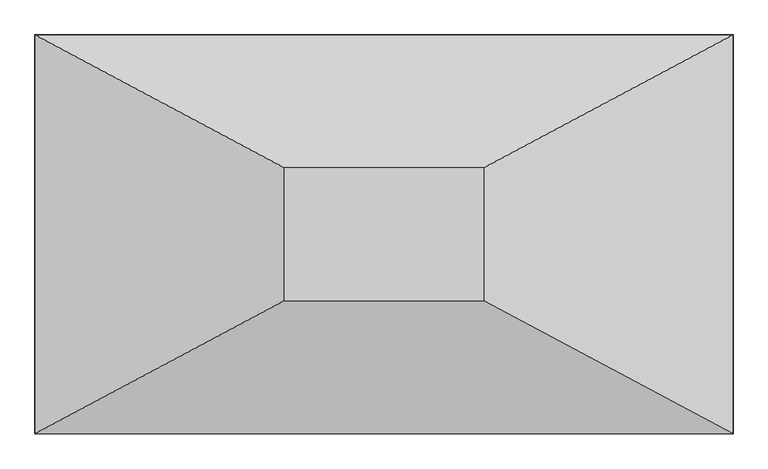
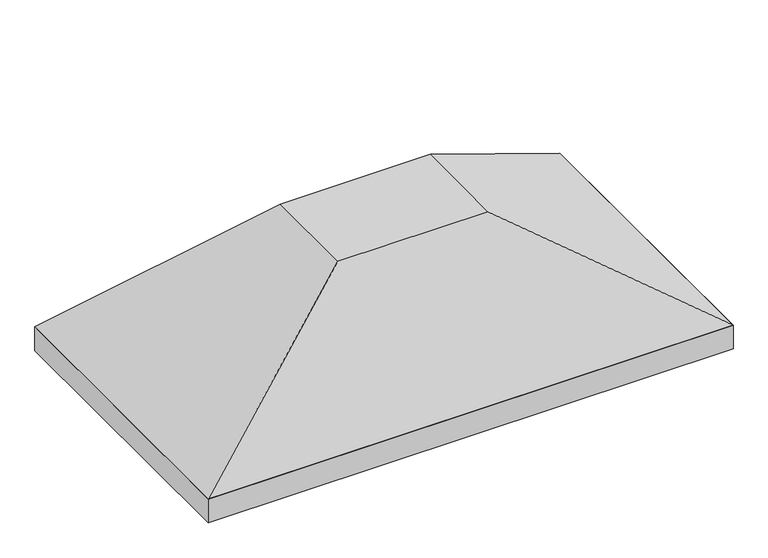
"""IFC4 building model written with IfcOpenShell, lengths in millimetres: proxy geometry, Coifa2 : Coifa."""

import ifcopenshell
import ifcopenshell.guid

model = None  # the IFC model being written
_history = None  # IfcOwnerHistory: only IFC2X3 demands one
_inside = {}  # id of a spatial element -> (the spatial element, [elements in it])
_under = {}  # id of a project, library or spatial element -> (it, [spatial elements below it])
_declared = {}  # id of a project -> (the project, [libraries it declares])
_typed = {}  # id of a type object -> (the type object, [elements of that type])
_made_of = {}  # id of a material, layer set ... -> (it, [elements and type objects made of it])


def new_model(schema):
    """Start an empty IFC model of exactly this schema.

    Asked for "IFC4X3", IfcOpenShell would pick the latest addendum, in which some entities
    have other attributes; the version numbers below select the first issue.
    IFC2X3 requires an IfcOwnerHistory on every rooted entity: one is made here for all.
    """
    global model, _history
    if schema == "IFC4X3":
        model = ifcopenshell.file(schema_version=(4, 3, 0, 0))
    else:
        model = ifcopenshell.file(schema=schema)
    _inside.clear()
    _under.clear()
    _declared.clear()
    _typed.clear()
    _made_of.clear()
    _history = None
    if model.schema == "IFC2X3":
        org = make("IfcOrganization", Name="unknown")
        user = make(
            "IfcPersonAndOrganization",
            ThePerson=make("IfcPerson", FamilyName="unknown"),
            TheOrganization=org,
        )
        app = make(
            "IfcApplication",
            ApplicationDeveloper=org,
            Version="unknown",
            ApplicationFullName="unknown",
            ApplicationIdentifier="unknown",
        )
        _history = make(
            "IfcOwnerHistory",
            OwningUser=user,
            OwningApplication=app,
            ChangeAction="ADDED",
            CreationDate=0,
        )
    return model


def make(cls, **values):
    """One entity of the class cls with the attributes given. An attribute that is None is left unset."""
    return model.create_entity(
        cls, **{name: value for name, value in values.items() if value is not None}
    )


def rooted(cls, **values):
    """An entity with a GlobalId (a new one), such as an element, a storey or a relation."""
    return make(cls, GlobalId=ifcopenshell.guid.new(), OwnerHistory=_history, **values)


def si_unit(unit_type, name, prefix=None):
    """IfcSIUnit, for example si_unit("LENGTHUNIT", "METRE", prefix="MILLI")."""
    return make("IfcSIUnit", UnitType=unit_type, Prefix=prefix, Name=name)


def assignment(units):
    """IfcUnitAssignment: the units of a project."""
    return None if units is None else make("IfcUnitAssignment", Units=units)


def point(xyz):
    """IfcCartesianPoint."""
    return None if xyz is None else make("IfcCartesianPoint", Coordinates=xyz)


def direction(xyz):
    """IfcDirection."""
    return None if xyz is None else make("IfcDirection", DirectionRatios=xyz)


def frame(location, z_axis=None, x_axis=None):
    """IfcAxis2Placement3D, a coordinate frame: its origin and axes. An axis left out is left unset."""
    return make(
        "IfcAxis2Placement3D",
        Location=point(location),
        Axis=direction(z_axis),
        RefDirection=direction(x_axis),
    )


def origin():
    """The frame at (0, 0, 0) with its axes left unset."""
    return frame((0.0, 0.0, 0.0))


def place(relative_to, where):
    """IfcLocalPlacement: puts the frame where relative to a parent placement (None: the world)."""
    return make(
        "IfcLocalPlacement", PlacementRelTo=relative_to, RelativePlacement=where
    )


def context(
    kind, dimensions, precision=None, world=None, true_north=None, identifier=None
):
    """IfcGeometricRepresentationContext, for example the 3D "Model" context."""
    return make(
        "IfcGeometricRepresentationContext",
        ContextIdentifier=identifier,
        ContextType=kind,
        CoordinateSpaceDimension=dimensions,
        Precision=precision,
        WorldCoordinateSystem=world,
        TrueNorth=true_north,
    )


def project(units=None, contexts=None):
    """IfcProject with its units and contexts."""
    return rooted(
        "IfcProject",
        Name="project",
        RepresentationContexts=contexts,
        UnitsInContext=assignment(units),
    )


def spatial(cls, under=None, at=None, **own):
    """A site, building, storey or space (cls), placed at a placement, below another one or the project."""
    s = rooted(cls, ObjectPlacement=at, **own)
    if under is not None:
        _under.setdefault(under.id(), (under, []))[1].append(s)
    return s


def polyline(points):
    """IfcPolyline through the points."""
    return make("IfcPolyline", Points=[point(p) for p in points])


def outline(outer, holes=None, kind="AREA"):
    """IfcArbitraryClosedProfileDef: a profile drawn as a closed curve; with holes, ...WithVoids."""
    if holes is None:
        return make("IfcArbitraryClosedProfileDef", ProfileType=kind, OuterCurve=outer)
    return make(
        "IfcArbitraryProfileDefWithVoids",
        ProfileType=kind,
        OuterCurve=outer,
        InnerCurves=holes,
    )


def extrude(swept, where, along, depth):
    """IfcExtrudedAreaSolid: the profile swept, set in the frame where, extruded along a direction by depth."""
    return make(
        "IfcExtrudedAreaSolid",
        SweptArea=swept,
        Position=where,
        ExtrudedDirection=direction(along),
        Depth=depth,
    )


def faces_of(points, faces, orient=None, outer=None):
    """IfcFace entities. A face is a list of loops; a loop is a list of indices into points, from 0.

    orient and outer hold one flag for each loop. By default every Orientation is true, the
    first loop of a face is its IfcFaceOuterBound and the others are IfcFaceBound.
    """
    made = []
    for i, loops in enumerate(faces):
        bounds = []
        for j, loop in enumerate(loops):
            is_outer = j == 0 if outer is None else outer[i][j]
            bounds.append(
                make(
                    "IfcFaceOuterBound" if is_outer else "IfcFaceBound",
                    Bound=make("IfcPolyLoop", Polygon=[points[k] for k in loop]),
                    Orientation=True if orient is None else orient[i][j],
                )
            )
        made.append(make("IfcFace", Bounds=bounds))
    return made


def faceted_brep(points, faces, orient=None, outer=None, voids=None):
    """IfcFacetedBrep: a solid bounded by flat faces; with voids (closed shells), ...WithVoids."""
    shared = [point(p) for p in points]
    hull = make("IfcClosedShell", CfsFaces=faces_of(shared, faces, orient, outer))
    if voids is None:
        return make("IfcFacetedBrep", Outer=hull)
    return make(
        "IfcFacetedBrepWithVoids",
        Outer=hull,
        Voids=[
            make(cls, CfsFaces=faces_of(shared, fs, o, b)) for cls, fs, o, b in voids
        ],
    )


def shape(context_of_items, identifier, shape_type, items):
    """IfcShapeRepresentation: the items that make up one representation, for example the "Body"."""
    return make(
        "IfcShapeRepresentation",
        ContextOfItems=context_of_items,
        RepresentationIdentifier=identifier,
        RepresentationType=shape_type,
        Items=items,
    )


def source(mapping_origin, context_of_items, identifier, shape_type, items):
    """IfcRepresentationMap: a shape defined once, which mapped items show again and again."""
    return make(
        "IfcRepresentationMap",
        MappingOrigin=mapping_origin,
        MappedRepresentation=shape(context_of_items, identifier, shape_type, items),
    )


def transform(
    local_origin,
    x_axis=None,
    y_axis=None,
    z_axis=None,
    scale=None,
    scale2=None,
    scale3=None,
    uniform=True,
):
    """IfcCartesianTransformationOperator3D, or its non-uniform kind. x_axis, y_axis, z_axis: its Axis1, 2, 3."""
    if uniform:
        return make(
            "IfcCartesianTransformationOperator3D",
            Axis1=direction(x_axis),
            Axis2=direction(y_axis),
            LocalOrigin=point(local_origin),
            Scale=scale,
            Axis3=direction(z_axis),
        )
    return make(
        "IfcCartesianTransformationOperator3DnonUniform",
        Axis1=direction(x_axis),
        Axis2=direction(y_axis),
        LocalOrigin=point(local_origin),
        Scale=scale,
        Axis3=direction(z_axis),
        Scale2=scale2,
        Scale3=scale3,
    )


def mapped(mapping_source, mapping_target):
    """IfcMappedItem: shows the shape of a source again, moved by a transform."""
    return make(
        "IfcMappedItem", MappingSource=mapping_source, MappingTarget=mapping_target
    )


def made_of(thing, what):
    """Note that an element or type object is made of a material, layer set ...; save() writes the relation."""
    if what is not None:
        _made_of.setdefault(what.id(), (what, []))[1].append(thing)
    return thing


def element(
    cls,
    number,
    at=None,
    inside=None,
    cuts=None,
    type_object=None,
    material=None,
    context=None,
    identifier="Body",
    shape_type=None,
    held_by="IfcProductDefinitionShape",
    body=None,
    shapes=None,
    **own,
):
    """One element of the class cls, such as IfcWall. Its Tag is "e" and its number.

    at: its placement. inside: the storey or other place that contains it. cuts: it is an
    opening in that element (IfcRelVoidsElement). A single representation is given by context,
    identifier, shape_type and body (its items); several are given by shapes. held_by: the class
    of the entity that holds the representations. save() writes the other relations.
    """
    e = rooted(cls, Tag="e%d" % number, ObjectPlacement=at, **own)
    if body is not None:
        shapes = [shape(context, identifier, shape_type, body)]
    if shapes is not None:
        e.Representation = make(held_by, Representations=shapes)
    if inside is not None:
        _inside.setdefault(inside.id(), (inside, []))[1].append(e)
    if cuts is not None:
        rooted(
            "IfcRelVoidsElement", RelatingBuildingElement=cuts, RelatedOpeningElement=e
        )
    if type_object is not None:
        _typed.setdefault(type_object.id(), (type_object, []))[1].append(e)
    return made_of(e, material)


def aggregate(whole, parts):
    """IfcRelAggregates: a whole, such as a stair, and the parts it consists of."""
    return rooted("IfcRelAggregates", RelatingObject=whole, RelatedObjects=parts)


def save(model, path):
    """Write the relations noted so far, then the file.

    IfcRelAggregates (storeys below a building ...), IfcRelContainedInSpatialStructure (elements
    in a storey), IfcRelDefinesByType, IfcRelAssociatesMaterial and IfcRelDeclares: one each for
    every whole, place, type object, material and project.
    """
    for whole, parts in _under.values():
        aggregate(whole, parts)
    for where, things in _inside.values():
        rooted(
            "IfcRelContainedInSpatialStructure",
            RelatedElements=things,
            RelatingStructure=where,
        )
    for kind, things in _typed.values():
        rooted("IfcRelDefinesByType", RelatedObjects=things, RelatingType=kind)
    for what, things in _made_of.values():
        rooted("IfcRelAssociatesMaterial", RelatedObjects=things, RelatingMaterial=what)
    for by, libraries in _declared.values():
        rooted("IfcRelDeclares", RelatingContext=by, RelatedDefinitions=libraries)
    model.write(path)


def mechanical_equipment_47fa911b(model_context):
    return source(origin(), model_context, "Body", "SolidModel", [
        extrude(outline(polyline([(17171.303881, -19502.5217416), (17171.303881, -20702.5217416), (15071.303881, -20702.5217416), (15071.303881, -19502.5217416), (17171.303881, -19502.5217416)])), frame((0.0, 0.0, 54141.8276675), z_axis=(0.0, 0.0, 1.0), x_axis=(1.0, 0.0, 0.0)), (0.0, 0.0, 1.0), 100.0),
        faceted_brep([(16421.303881, -19902.5217416, 54741.8276675), (15821.303881, -19902.5217416, 54741.8276675), (15821.303881, -20302.5217416, 54741.8276675), (16421.303881, -20302.5217416, 54741.8276675), (17171.303881, -19502.5217416, 54241.8276675), (17171.303881, -20702.5217416, 54241.8276675), (15071.303881, -20702.5217416, 54241.8276675), (15071.303881, -19502.5217416, 54241.8276675)], [[[0, 1, 2, 3]], [[4, 5, 6, 7]], [[4, 7, 1, 0]], [[7, 6, 2, 1]], [[6, 5, 3, 2]], [[5, 4, 0, 3]]]),
    ])


if __name__ == "__main__":
    model = new_model("IFC4")
    model_context = context("Model", 3, world=origin())
    ifc_project = project(units=[si_unit("LENGTHUNIT", "METRE", prefix="MILLI")], contexts=[model_context])
    site = spatial("IfcSite", under=ifc_project)
    building = spatial("IfcBuilding", under=site)
    placement = place(None, origin())
    mechanical_equipment_shape = mechanical_equipment_47fa911b(model_context)
    element("IfcBuildingElementProxy", 1, Name="Coifa2 : Coifa", ObjectType="Coifa2 : Coifa", at=placement, inside=building, context=model_context, shape_type="MappedRepresentation", body=[
        mapped(mechanical_equipment_shape, transform((0.0, 0.0, 0.0), x_axis=(1.0, 0.0, 0.0), y_axis=(0.0, 1.0, 0.0), z_axis=(0.0, 0.0, 1.0))),
    ])
    save(model, "model.ifc")
